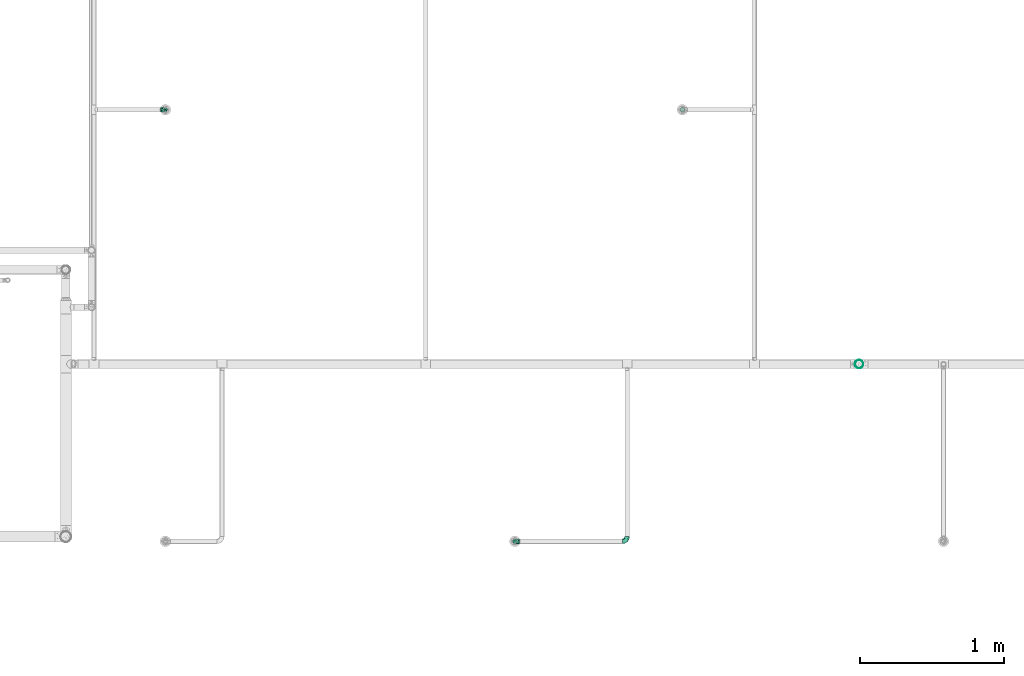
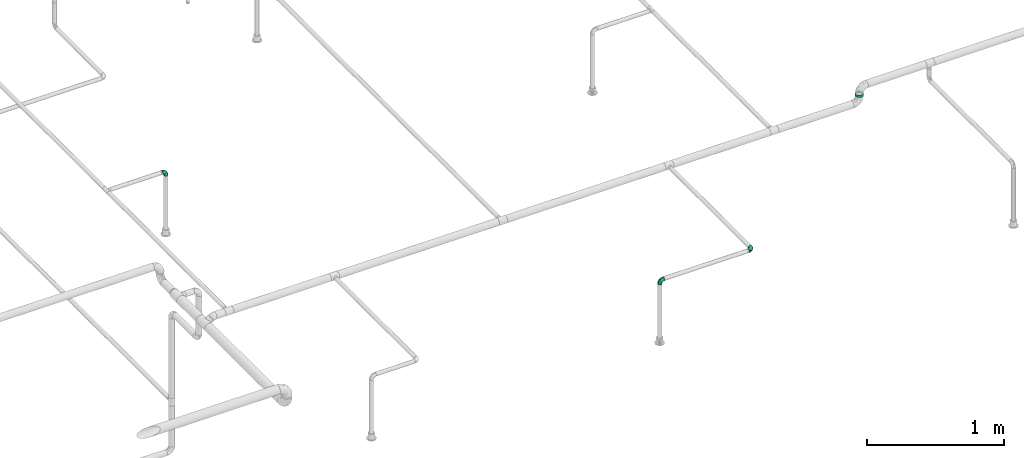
# One storey, part 63 of 95: 5 flow fittings, 1 flow segment.
"""IFC2X3 building model written with IfcOpenShell, lengths in millimetres."""

from ifc_helpers import new_model, entity, si_unit, converted_unit, derived_unit, direction, frame, origin_with_axes, origin_2d_with_axis, place, context, subcontext, project, spatial, hollow_circle, extrude, open_shell, surface_model, source, transform, mapped, type_object, element, save


model = new_model("IFC2X3")

# Units and contexts
model_context = context("Model", 3, precision=0.01, world=frame((0.0, 4.29681676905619e-09, 0.0)), true_north=direction((4.01073788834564e-13, 1.0)))
plan_context = context("Plan", 3, precision=0.01, world=frame((0.0, 4.29681676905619e-09, 0.0)), true_north=direction((4.01073788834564e-13, 1.0)))
body_context = subcontext(model_context, "Body", "Model", "MODEL_VIEW")
ifc_project = project(units=[converted_unit("PLANEANGLEUNIT", "DEGREE", entity("IfcPositiveLengthMeasure", 0.0174532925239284), si_unit("PLANEANGLEUNIT", "RADIAN"), dimensions=[0, 0, 0, 0, 0, 0, 0]), si_unit("AREAUNIT", "SQUARE_METRE"), si_unit("LENGTHUNIT", "METRE", prefix="MILLI"), si_unit("MASSUNIT", "GRAM", prefix="KILO"), si_unit("POWERUNIT", "WATT"), si_unit("PRESSUREUNIT", "PASCAL"), si_unit("FORCEUNIT", "NEWTON", prefix="KILO"), si_unit("ELECTRICVOLTAGEUNIT", "VOLT"), si_unit("ELECTRICCURRENTUNIT", "AMPERE"), si_unit("THERMODYNAMICTEMPERATUREUNIT", "DEGREE_CELSIUS"), si_unit("TIMEUNIT", "SECOND"), si_unit("VOLUMEUNIT", "CUBIC_METRE"), derived_unit("LINEARVELOCITYUNIT", [(si_unit("LENGTHUNIT", "METRE"), 1), (si_unit("TIMEUNIT", "SECOND"), -1)]), derived_unit("VOLUMETRICFLOWRATEUNIT", [(si_unit("VOLUMEUNIT", "CUBIC_METRE"), 1), (si_unit("TIMEUNIT", "SECOND"), -1)]), derived_unit("THERMALTRANSMITTANCEUNIT", [(si_unit("POWERUNIT", "WATT"), 1), (si_unit("THERMODYNAMICTEMPERATUREUNIT", "KELVIN"), -1), (si_unit("AREAUNIT", "SQUARE_METRE"), -1)]), derived_unit("SOUNDPRESSUREUNIT", [(si_unit("PRESSUREUNIT", "PASCAL"), 1)])], contexts=[model_context, plan_context])

# Site, building, storey
site_placement = place(None, frame((0.0, -4.29681676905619e-09, 0.0), z_axis=(0.0, 0.0, 1.0), x_axis=(1.0, 0.0, 0.0)))
site = spatial("IfcSite", under=ifc_project, at=site_placement, CompositionType="ELEMENT")
building_placement = place(site_placement, frame((0.0, 4.29681676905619e-09, 0.0), z_axis=(0.0, 0.0, 1.0), x_axis=(1.0, 0.0, 0.0)))
building = spatial("IfcBuilding", under=site, at=building_placement, Name="mc-building", CompositionType="ELEMENT")
storey_placement = place(building_placement, frame((0.0, 0.0, 210900.0), z_axis=(0.0, 0.0, 1.0), x_axis=(1.0, 0.0, 0.0)))
storey = spatial("IfcBuildingStorey", under=building, at=storey_placement, Name="Nivå F", CompositionType="ELEMENT", Elevation=210900.0)

# Flow fittings
pipe_fitting_type_1 = type_object("IfcPipeFittingType", Name="magi_pipe_fe_reducer_centric_short_NOR", PredefinedType="TRANSITION")
shared_shape_1 = source(origin_with_axes(), body_context, "Body", "SurfaceModel", [
    surface_model("IfcShellBasedSurfaceModel", [(14.4, 5.35, -9.26647), (14.4, 0.0, -10.7), (14.4, 2.76936, -10.33541), (14.4, 10.33541, -2.76936), (14.4, 7.56604, -7.56604), (14.4, -10.33541, -2.76936), (14.4, 9.26647, -5.35), (14.4, 0.0, 10.7), (14.4, -5.35, -9.26647), (14.4, -2.76936, -10.33541), (14.4, -7.56604, -7.56604), (14.4, -9.26647, -5.35), (14.4, 10.7, 0.0), (14.4, 10.33541, 2.76936), (14.4, 9.26647, 5.35), (14.4, 7.56604, 7.56604), (14.4, 2.76936, 10.33541), (14.4, 5.35, 9.26647), (14.4, -10.33541, 2.76936), (14.4, -7.56604, 7.56604), (14.4, -9.26647, 5.35), (14.4, -10.7, 0.0), (14.4, -2.76936, 10.33541), (14.4, -5.35, 9.26647), (12.4, 2.76936, 10.33541), (12.4, -10.33541, -2.76936), (12.4, 0.0, 10.7), (12.4, 5.35, 9.26647), (12.4, 7.56604, 7.56604), (12.4, 9.26647, 5.35), (12.4, 10.33541, 2.76936), (12.4, -10.33541, 2.76936), (12.4, -2.76936, 10.33541), (12.4, -7.56604, 7.56604), (12.4, -5.35, 9.26647), (12.4, -9.26647, 5.35), (12.4, -10.7, 0.0), (12.4, 10.33541, -2.76936), (12.4, 5.35, -9.26647), (12.4, 9.26647, -5.35), (12.4, 7.56604, -7.56604), (12.4, 2.76936, -10.33541), (12.4, -9.26647, -5.35), (12.4, -5.35, -9.26647), (12.4, -7.56604, -7.56604), (12.4, 0.0, -10.7), (12.4, -2.76936, -10.33541), (12.4, 10.7, 0.0), (-2.0, 11.9501, 11.9501), (-2.0, 0.0, 16.9), (-2.0, 4.37404, 16.32415), (-2.0, 8.45, 14.63583), (-2.0, 14.63583, 8.45), (-2.0, 16.32415, 4.37404), (-2.0, -16.32415, 4.37404), (-2.0, -8.45, 14.63583), (-2.0, -14.63583, 8.45), (-2.0, -11.9501, 11.9501), (-2.0, -4.37404, 16.32415), (-2.0, -16.32415, -4.37404), (-2.0, -16.9, 0.0), (-2.0, -8.45, -14.63583), (-2.0, 16.32415, -4.37404), (-2.0, 11.9501, -11.9501), (-2.0, 14.63583, -8.45), (-2.0, 8.45, -14.63583), (-2.0, 4.37404, -16.32415), (-2.0, 0.0, -16.9), (-2.0, -11.9501, -11.9501), (-2.0, -14.63583, -8.45), (-2.0, -4.37404, -16.32415), (-2.0, 16.9, 0.0), (0.0, 4.37404, -16.32415), (0.0, 8.45, -14.63583), (0.0, 11.9501, -11.9501), (0.0, 0.0, -16.9), (0.0, 16.32415, -4.37404), (0.0, 16.32415, 4.37404), (0.0, 14.63583, -8.45), (0.0, -8.45, -14.63583), (0.0, -4.37404, -16.32415), (0.0, -11.9501, -11.9501), (0.0, -16.32415, -4.37404), (0.0, -14.63583, -8.45), (0.0, -16.32415, 4.37404), (0.0, 16.9, 0.0), (0.0, 14.63583, 8.45), (0.0, 11.9501, 11.9501), (0.0, 4.37404, 16.32415), (0.0, 8.45, 14.63583), (0.0, 0.0, 16.9), (0.0, -14.63583, 8.45), (0.0, -16.9, 0.0), (0.0, -8.45, 14.63583), (0.0, -11.9501, 11.9501), (0.0, -4.37404, 16.32415), (12.4, 9.3625, -2.31662), (0.0, 14.42505, -5.97505), (0.0, 15.66253, -2.98753), (12.4, -6.6875, -6.94985), (0.0, -13.18758, -8.96258), (0.0, 2.98753, -15.66253), (12.4, 0.0, -9.26647), (12.4, 6.6875, -6.94985), (0.0, 8.96258, -13.18758), (12.4, -9.3625, -2.31662), (0.0, -15.66253, -2.98753), (0.0, -14.42505, -5.97505), (0.0, 5.97505, -14.42505), (0.0, -2.98753, -15.66253), (0.0, -8.96258, -13.18758), (0.0, 13.18758, -8.96258), (12.4, 8.025, -4.63324), (12.4, -2.675, -9.26647), (12.4, 2.675, -9.26647), (0.0, -5.97505, -14.42505), (12.4, -8.025, -4.63324), (12.4, -9.3625, 2.31662), (0.0, -14.42505, 5.97505), (0.0, -15.66253, 2.98753), (12.4, 6.6875, 6.94985), (0.0, 13.18758, 8.96258), (0.0, -2.98753, 15.66253), (12.4, 0.0, 9.26647), (12.4, -6.6875, 6.94985), (0.0, -8.96258, 13.18758), (12.4, 9.3625, 2.31662), (0.0, 15.66253, 2.98753), (0.0, 14.42505, 5.97505), (0.0, -5.97505, 14.42505), (0.0, 2.98753, 15.66253), (0.0, 8.96258, 13.18758), (0.0, -13.18758, 8.96258), (12.4, -8.025, 4.63324), (12.4, 2.675, 9.26647), (12.4, -2.675, 9.26647), (0.0, 5.97505, 14.42505), (12.4, 8.025, 4.63324)], [open_shell([[[0, 1, 2]], [[3, 0, 4]], [[5, 0, 3]], [[3, 4, 6]], [[7, 5, 3]], [[1, 8, 9]], [[1, 0, 8]], [[10, 5, 11]], [[5, 10, 8]], [[0, 5, 8]], [[3, 12, 13]], [[13, 14, 15]], [[13, 15, 16]], [[7, 3, 16]], [[16, 15, 17]], [[7, 18, 5]], [[18, 19, 20]], [[21, 5, 18]], [[19, 22, 23]], [[22, 19, 18]], [[7, 22, 18]], [[13, 16, 3]], [[24, 25, 26]], [[27, 25, 24]], [[28, 29, 30]], [[28, 25, 27]], [[31, 26, 25]], [[32, 33, 34]], [[33, 32, 31]], [[33, 31, 35]], [[32, 26, 31]], [[31, 25, 36]], [[30, 37, 28]], [[25, 28, 37]], [[38, 37, 39]], [[37, 38, 25]], [[38, 39, 40]], [[41, 25, 38]], [[42, 43, 44]], [[43, 42, 25]], [[43, 45, 46]], [[43, 25, 41]], [[41, 45, 43]], [[37, 30, 47]], [[25, 5, 36]], [[42, 11, 25]], [[8, 44, 43]], [[42, 44, 10]], [[9, 43, 46]], [[25, 11, 5]], [[5, 21, 36]], [[9, 8, 43]], [[10, 44, 8]], [[10, 11, 42]], [[1, 9, 46]], [[46, 45, 1]], [[41, 2, 45]], [[38, 0, 41]], [[6, 40, 39]], [[38, 40, 4]], [[3, 39, 37]], [[38, 4, 0]], [[0, 2, 41]], [[12, 3, 37]], [[6, 39, 3]], [[6, 4, 40]], [[47, 12, 37]], [[45, 2, 1]], [[30, 13, 47]], [[29, 14, 30]], [[17, 28, 27]], [[29, 28, 15]], [[16, 27, 24]], [[30, 14, 13]], [[13, 12, 47]], [[16, 17, 27]], [[15, 28, 17]], [[15, 14, 29]], [[7, 16, 24]], [[24, 26, 7]], [[32, 22, 26]], [[34, 23, 32]], [[20, 33, 35]], [[34, 33, 19]], [[18, 35, 31]], [[34, 19, 23]], [[23, 22, 32]], [[21, 18, 31]], [[20, 35, 18]], [[20, 19, 33]], [[36, 21, 31]], [[26, 22, 7]], [[48, 49, 50]], [[48, 50, 51]], [[48, 52, 53]], [[48, 53, 49]], [[49, 53, 54]], [[55, 56, 57]], [[55, 58, 49]], [[56, 55, 49]], [[49, 54, 56]], [[54, 59, 60]], [[54, 53, 61]], [[53, 62, 63]], [[63, 62, 64]], [[63, 65, 66]], [[61, 53, 63]], [[67, 63, 66]], [[59, 68, 69]], [[68, 59, 61]], [[61, 67, 70]], [[59, 54, 61]], [[63, 67, 61]], [[53, 71, 62]], [[72, 73, 74]], [[75, 72, 74]], [[74, 76, 77]], [[76, 74, 78]], [[74, 77, 79]], [[75, 79, 80]], [[75, 74, 79]], [[81, 82, 83]], [[82, 81, 79]], [[79, 84, 82]], [[77, 76, 85]], [[77, 86, 87]], [[77, 87, 88]], [[88, 84, 79]], [[88, 87, 89]], [[84, 88, 90]], [[90, 91, 84]], [[92, 82, 84]], [[91, 93, 94]], [[91, 90, 93]], [[93, 90, 95]], [[79, 77, 88]], [[59, 82, 60]], [[69, 83, 59]], [[79, 68, 61]], [[69, 68, 81]], [[80, 61, 70]], [[59, 83, 82]], [[82, 92, 60]], [[80, 79, 61]], [[81, 68, 79]], [[81, 83, 69]], [[75, 80, 70]], [[70, 67, 75]], [[66, 72, 67]], [[65, 73, 66]], [[78, 63, 64]], [[65, 63, 74]], [[76, 64, 62]], [[65, 74, 73]], [[73, 72, 66]], [[85, 76, 62]], [[78, 64, 76]], [[78, 74, 63]], [[71, 85, 62]], [[67, 72, 75]], [[53, 77, 71]], [[52, 86, 53]], [[89, 48, 51]], [[52, 48, 87]], [[88, 51, 50]], [[53, 86, 77]], [[77, 85, 71]], [[88, 89, 51]], [[87, 48, 89]], [[87, 86, 52]], [[90, 88, 50]], [[50, 49, 90]], [[58, 95, 49]], [[55, 93, 58]], [[91, 57, 56]], [[55, 57, 94]], [[84, 56, 54]], [[55, 94, 93]], [[93, 95, 58]], [[92, 84, 54]], [[91, 56, 84]], [[91, 94, 57]], [[60, 92, 54]], [[49, 95, 90]], [[27, 34, 47]], [[47, 34, 43]], [[43, 38, 47]], [[43, 34, 36]], [[90, 87, 94]], [[92, 94, 87]], [[87, 74, 92]], [[75, 92, 74]], [[81, 92, 75]], [[74, 87, 85]], [[96, 97, 98]], [[81, 99, 100]], [[101, 102, 75]], [[98, 85, 47]], [[74, 103, 104]], [[104, 103, 38]], [[105, 106, 107]], [[38, 108, 104]], [[102, 109, 75]], [[110, 99, 81]], [[47, 96, 98]], [[103, 111, 112]], [[109, 102, 113]], [[36, 92, 106]], [[102, 101, 114]], [[110, 115, 43]], [[96, 112, 97]], [[107, 116, 105]], [[36, 106, 105]], [[113, 115, 109]], [[43, 115, 113]], [[116, 107, 100]], [[108, 38, 114]], [[111, 103, 74]], [[111, 97, 112]], [[99, 110, 43]], [[116, 100, 99]], [[101, 108, 114]], [[117, 118, 119]], [[87, 120, 121]], [[122, 123, 90]], [[119, 92, 36]], [[94, 124, 125]], [[125, 124, 34]], [[126, 127, 128]], [[34, 129, 125]], [[123, 130, 90]], [[131, 120, 87]], [[36, 117, 119]], [[124, 132, 133]], [[130, 123, 134]], [[47, 85, 127]], [[123, 122, 135]], [[131, 136, 27]], [[117, 133, 118]], [[128, 137, 126]], [[47, 127, 126]], [[134, 136, 130]], [[27, 136, 134]], [[137, 128, 121]], [[129, 34, 135]], [[132, 124, 94]], [[132, 118, 133]], [[120, 131, 27]], [[137, 121, 120]], [[122, 129, 135]]])]),
])
for number, where, z_axis, x_axis, name in (
    (1, (526881.79186, 452603.28649, 3769.25200000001), (0.0, -0.99999999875, -4.99999999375e-05), (0.0, 4.99999999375e-05, -0.99999999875), "magi_pipe_fe_reducer_centric_short_NOR"),
    (2, (525718.79194, 449607.85, 3769.25200000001), (-0.000893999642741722, -0.99999960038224, 0.0), (0.0, 0.0, -1.0), "magi_pipe_fe_reducer_centric_short_NOR"),
):
    element("IfcFlowFitting", number, at=place(storey_placement, frame(where, z_axis=z_axis, x_axis=x_axis)), inside=storey, type_object=pipe_fitting_type_1, Name=name, context=body_context, shape_type="MappedRepresentation", body=[
        mapped(shared_shape_1, transform((0.0, 0.0, 0.0), scale=1.0)),
    ])
pipe_fitting_type_2 = type_object("IfcPipeFittingType", Name="magi_pipe_fe_elbow_short_001", PredefinedType="BEND")
shared_shape_2 = source(origin_with_axes(), body_context, "Body", "SurfaceModel", [
    surface_model("IfcShellBasedSurfaceModel", [(-33.8, 8.45, -14.63583), (-33.8, 4.37404, -16.32415), (-33.8, 11.9501, -11.9501), (-33.8, -11.9501, -11.9501), (-33.8, -14.63583, -8.45), (-33.8, -8.45, -14.63583), (-33.8, 0.0, -16.9), (-33.8, -4.37404, -16.32415), (-33.8, -4.37404, 16.32415), (-33.8, 0.0, 16.9), (-33.8, -8.45, 14.63583), (-33.8, 16.32415, -4.37404), (-33.8, 14.63583, -8.45), (-33.8, -16.32415, -4.37404), (-33.8, -16.9, 0.0), (-33.8, -16.32415, 4.37404), (-33.8, 11.9501, 11.9501), (-33.8, 14.63583, 8.45), (-33.8, 16.32415, 4.37404), (-33.8, 4.37404, 16.32415), (-33.8, 8.45, 14.63583), (-33.8, -14.63583, 8.45), (-33.8, -11.9501, 11.9501), (-33.8, 16.9, 0.0), (-11.9501, 33.8, -11.9501), (0.0, 33.8, -16.9), (-4.37404, 33.8, -16.32415), (-8.45, 33.8, -14.63583), (-14.63583, 33.8, -8.45), (-16.32415, 33.8, -4.37404), (14.63583, 33.8, -8.45), (8.45, 33.8, 14.63583), (16.32415, 33.8, -4.37404), (8.45, 33.8, -14.63583), (11.9501, 33.8, -11.9501), (4.37404, 33.8, -16.32415), (16.32415, 33.8, 4.37404), (16.9, 33.8, 0.0), (-11.9501, 33.8, 11.9501), (-16.32415, 33.8, 4.37404), (-14.63583, 33.8, 8.45), (-8.45, 33.8, 14.63583), (-4.37404, 33.8, 16.32415), (11.9501, 33.8, 11.9501), (14.63583, 33.8, 8.45), (0.0, 33.8, 16.9), (4.37404, 33.8, 16.32415), (-16.9, 33.8, 0.0), (-24.79389, -13.12945, 9.48721), (-22.19287, -9.75018, 12.59315), (-24.09897, -14.97035, 0.0), (-14.93934, -10.76256, 8.5297), (-22.46095, -14.75051, 5.27077), (14.75051, 22.46094, 5.27077), (11.9251, 13.23888, 4.33236), (13.04069, 14.39795, 0.0), (7.71387, 13.68847, 11.55891), (9.75018, 22.19287, 12.59315), (4.10169, 13.0571, 14.04018), (-24.84007, -6.39063, 15.2048), (-25.81779, -2.23879, 16.61097), (-23.66549, 2.59054, 16.87119), (-26.50418, 14.06512, 11.08152), (-24.21253, 17.66365, 7.72657), (-29.58514, 15.86957, 7.00283), (-6.17382, -7.5455, 0.0), (-13.23888, -11.9251, 4.33236), (-14.39795, -13.04069, 0.0), (-17.81434, 18.87373, 11.97104), (-6.30846, 29.15138, 15.82987), (-2.31622, 25.28002, 16.85849), (-29.23923, 10.23435, 13.77053), (-1.45439, -2.85688, 7.61475), (-0.28326, 0.34872, 10.09509), (-5.74484, -4.04709, 10.4122), (-4.41137, 11.31918, 16.59407), (-8.39727, 3.10034, 15.7812), (-1.72649, 9.1306, 15.53089), (-17.39909, 24.75344, 7.64977), (-26.19233, 20.0512, 0.0), (-28.14518, 17.29657, 4.25857), (-26.05147, 6.6281, 15.96447), (-5.87354, 16.61944, 16.86968), (-12.51807, 12.51807, 16.48937), (-10.06312, 7.38516, 16.81295), (-3.01882, 3.01882, 13.81718), (-13.0571, -4.10169, 14.04018), (-16.82553, -0.15166, 16.38038), (10.76256, 14.93934, 8.5297), (13.12945, 24.79389, 9.48721), (6.39063, 24.84007, 15.2048), (2.23879, 25.81779, 16.61097), (-13.68847, -7.71387, 11.55891), (14.97035, 24.09897, 0.0), (-7.30894, 22.89991, 16.09489), (-10.67958, 26.17414, 14.008), (-12.78295, 18.26924, 15.06066), (-13.88562, 22.45231, 12.93244), (-18.04944, 15.16501, 14.04434), (-23.11658, 20.08178, 4.02986), (-21.84989, 21.84989, 0.0), (-18.55817, 25.48277, 3.93065), (-13.95142, 26.94732, 11.03289), (-18.57098, 7.23906, 16.59756), (-16.58335, 4.14122, 16.89279), (-17.96666, 11.46709, 15.63151), (-9.84453, 17.54304, 16.18938), (0.15166, 16.82553, 16.38038), (-23.27207, 11.47201, 14.23154), (3.84842, 5.86994, 10.70473), (-8.0212, -7.54413, 7.93275), (1.00345, -2.19508, 4.57414), (5.13203, 3.01004, 5.90201), (5.24161, 1.7543, 2.53265), (8.70457, 7.04947, 3.99182), (-20.0512, 26.19233, 0.0), (8.4852, 8.76699, 7.09296), (-4.55488, -6.72064, 4.90681), (2.05031, -2.05031, 0.0), (7.5455, 6.17382, 0.0), (-26.75399, 2.1369, -16.845), (-14.61995, 24.73803, -11.27736), (-28.45274, -13.45335, -9.81895), (-26.00469, 6.63555, -15.96645), (-23.06726, 20.04573, -4.26202), (-13.80647, -4.26506, -14.17873), (-14.67501, -0.21081, -16.07388), (-6.7902, -0.2828, -13.8478), (-24.53586, 11.08096, -14.13417), (-26.72048, 14.00837, -11.05776), (10.0967, 24.44989, -12.75976), (5.83237, 21.40218, -15.03047), (6.66249, 28.54238, -15.38093), (-20.38182, 15.48705, -12.74596), (12.53268, 21.23441, -9.15363), (12.54494, 15.67504, -5.54878), (9.7522, 12.89279, -8.66343), (-15.65186, 19.64213, -13.01327), (-12.03528, 20.66498, -14.67665), (-15.61907, 15.61906, -14.83879), (-25.56551, -15.26206, 0.0), (-24.65452, -15.12934, -5.50955), (13.45335, 28.45274, -9.81895), (15.12934, 24.65452, -5.50955), (-7.35442, -8.31014, -5.65563), (-15.67504, -12.54494, -5.54878), (-24.44989, -10.0967, -12.75976), (0.16522, 0.41303, -9.71728), (-5.70658, -5.33066, -8.89288), (-5.13869, -2.37198, -11.53565), (-21.23441, -12.53268, -9.15363), (0.71146, 7.93863, -14.09382), (0.21081, 14.67501, -16.07388), (3.49291, 14.42772, -14.76381), (-24.89911, -2.13088, -16.591), (-28.54238, -6.66249, -15.38093), (-18.44386, -7.71663, -13.26957), (2.13088, 24.89911, -16.591), (-28.64342, 17.44413, -2.89318), (1.70017, -1.28722, -5.09504), (-16.57067, 26.81947, -7.36596), (-17.69055, 27.4263, -3.76405), (-12.89279, -9.7522, -8.66343), (-5.96611, 5.96611, -15.95814), (-20.53709, 20.09345, -8.28985), (-2.1369, 26.75399, -16.845), (-6.89872, 24.58781, -16.02578), (-10.60739, 26.53157, -13.98044), (-21.40218, -5.83237, -15.03047), (2.93192, 5.89627, -11.55917), (6.89393, 12.61842, -11.82233), (5.58056, 5.95325, -8.79455), (-3.99512, 18.61798, -16.89635), (8.31014, 7.35442, -5.65563), (-9.1383, 9.86148, -16.89041), (-9.99983, 16.02119, -16.39699), (-16.68576, 9.78031, -16.34199), (-27.01915, 16.61158, -7.12979), (15.26206, 25.56551, 0.0), (-18.61798, 3.99512, -16.89635), (-19.37495, 27.82495, 0.0), (-12.61842, -6.89393, -11.82233), (-18.84705, 19.14018, -10.96545)], [open_shell([[[0, 1, 2]], [[3, 4, 5]], [[6, 7, 5]], [[8, 9, 10]], [[1, 6, 2]], [[11, 12, 2]], [[4, 2, 6]], [[2, 13, 10]], [[5, 4, 6]], [[2, 4, 13]], [[14, 15, 13]], [[11, 2, 16]], [[11, 17, 18]], [[11, 16, 17]], [[19, 20, 16]], [[16, 2, 10]], [[19, 16, 10]], [[21, 22, 15]], [[22, 13, 15]], [[22, 10, 13]], [[10, 9, 19]], [[11, 18, 23]], [[24, 25, 26]], [[24, 26, 27]], [[24, 28, 29]], [[25, 24, 30]], [[31, 32, 24]], [[33, 30, 34]], [[33, 35, 25]], [[25, 30, 33]], [[32, 30, 24]], [[32, 36, 37]], [[38, 24, 29]], [[39, 40, 29]], [[40, 38, 29]], [[38, 41, 42]], [[38, 31, 24]], [[31, 38, 42]], [[36, 43, 44]], [[36, 32, 43]], [[31, 45, 46]], [[32, 31, 43]], [[42, 45, 31]], [[39, 29, 47]], [[22, 48, 49]], [[15, 14, 50]], [[51, 48, 52]], [[53, 54, 55]], [[48, 22, 21]], [[15, 52, 21]], [[56, 57, 58]], [[49, 10, 22]], [[49, 59, 10]], [[9, 60, 61]], [[62, 63, 64]], [[65, 66, 67]], [[57, 43, 31]], [[62, 68, 63]], [[42, 69, 70]], [[20, 71, 16]], [[8, 60, 9]], [[72, 73, 74]], [[75, 76, 77]], [[16, 62, 17]], [[40, 39, 78]], [[79, 23, 80]], [[64, 18, 17]], [[9, 61, 19]], [[19, 81, 20]], [[82, 83, 84]], [[74, 85, 86]], [[59, 86, 87]], [[88, 89, 57]], [[90, 31, 46]], [[44, 53, 36]], [[46, 45, 91]], [[54, 53, 88]], [[44, 89, 53]], [[92, 86, 49]], [[89, 44, 43]], [[10, 59, 8]], [[53, 55, 93]], [[93, 36, 53]], [[66, 52, 67]], [[94, 82, 70]], [[95, 96, 94]], [[97, 98, 96]], [[79, 99, 100]], [[41, 38, 95]], [[101, 100, 99]], [[68, 78, 63]], [[42, 41, 69]], [[23, 18, 80]], [[95, 94, 69]], [[78, 101, 99]], [[38, 102, 95]], [[70, 45, 42]], [[97, 95, 102]], [[15, 50, 52]], [[90, 57, 31]], [[57, 90, 58]], [[81, 19, 61]], [[103, 104, 84]], [[105, 81, 103]], [[38, 40, 102]], [[106, 96, 83]], [[94, 106, 82]], [[91, 70, 107]], [[71, 62, 16]], [[62, 108, 98]], [[86, 59, 49]], [[67, 52, 50]], [[60, 59, 87]], [[92, 49, 51]], [[86, 85, 76]], [[91, 90, 46]], [[37, 36, 93]], [[107, 77, 58]], [[107, 58, 90]], [[58, 85, 109]], [[110, 74, 92]], [[72, 74, 110]], [[66, 51, 52]], [[72, 111, 112]], [[113, 114, 112]], [[56, 88, 57]], [[52, 48, 21]], [[49, 48, 51]], [[57, 89, 43]], [[53, 89, 88]], [[103, 81, 61]], [[71, 81, 108]], [[18, 64, 80]], [[63, 78, 99]], [[47, 115, 101]], [[101, 115, 100]], [[40, 78, 102]], [[68, 102, 78]], [[97, 96, 95]], [[105, 98, 108]], [[103, 84, 83]], [[107, 70, 82]], [[76, 84, 87]], [[82, 84, 75]], [[70, 91, 45]], [[90, 91, 107]], [[59, 60, 8]], [[61, 60, 87]], [[73, 85, 74]], [[109, 112, 116]], [[103, 61, 104]], [[105, 103, 83]], [[96, 105, 83]], [[81, 105, 108]], [[96, 98, 105]], [[62, 98, 68]], [[61, 87, 104]], [[87, 84, 104]], [[86, 76, 87]], [[77, 76, 85]], [[58, 77, 85]], [[75, 77, 107]], [[82, 75, 107]], [[76, 75, 84]], [[81, 71, 20]], [[62, 71, 108]], [[95, 69, 41]], [[70, 69, 94]], [[62, 64, 17]], [[80, 63, 99]], [[63, 80, 64]], [[80, 99, 79]], [[66, 65, 117]], [[110, 66, 117]], [[112, 114, 116]], [[118, 117, 65]], [[110, 92, 51]], [[112, 111, 113]], [[119, 55, 54]], [[74, 86, 92]], [[58, 109, 56]], [[116, 56, 109]], [[66, 110, 51]], [[72, 110, 117]], [[111, 72, 117]], [[73, 112, 109]], [[117, 118, 111]], [[113, 111, 118]], [[118, 119, 113]], [[114, 119, 54]], [[119, 114, 113]], [[116, 54, 88]], [[54, 116, 114]], [[116, 88, 56]], [[112, 73, 72]], [[85, 73, 109]], [[78, 39, 101]], [[47, 101, 39]], [[102, 68, 97]], [[97, 68, 98]], [[82, 106, 83]], [[94, 96, 106]], [[1, 120, 6]], [[28, 24, 121]], [[3, 122, 4]], [[0, 123, 1]], [[100, 124, 79]], [[125, 126, 127]], [[128, 2, 129]], [[130, 131, 132]], [[128, 129, 133]], [[134, 135, 136]], [[137, 138, 139]], [[128, 0, 2]], [[67, 140, 141]], [[134, 142, 143]], [[141, 13, 4]], [[144, 65, 145]], [[146, 3, 5]], [[147, 148, 149]], [[145, 141, 150]], [[151, 152, 153]], [[154, 7, 6]], [[5, 155, 146]], [[150, 146, 156]], [[155, 5, 7]], [[143, 135, 134]], [[35, 157, 25]], [[23, 79, 158]], [[148, 159, 144]], [[160, 161, 29]], [[145, 162, 144]], [[163, 152, 151]], [[29, 28, 160]], [[121, 164, 160]], [[33, 34, 130]], [[25, 165, 26]], [[26, 165, 166]], [[142, 34, 30]], [[24, 27, 167]], [[124, 161, 164]], [[157, 35, 132]], [[155, 154, 168]], [[123, 0, 128]], [[169, 170, 171]], [[172, 157, 152]], [[26, 166, 27]], [[132, 35, 33]], [[142, 130, 34]], [[168, 154, 126]], [[136, 135, 173]], [[133, 137, 139]], [[2, 12, 129]], [[170, 131, 130]], [[30, 32, 143]], [[172, 174, 175]], [[176, 123, 128]], [[158, 177, 11]], [[135, 55, 119]], [[167, 27, 166]], [[175, 166, 172]], [[137, 167, 138]], [[122, 141, 4]], [[140, 14, 13]], [[32, 37, 178]], [[170, 130, 134]], [[152, 157, 131]], [[165, 157, 172]], [[153, 170, 151]], [[152, 163, 174]], [[168, 125, 156]], [[122, 146, 150]], [[120, 154, 6]], [[179, 174, 126]], [[179, 126, 154]], [[126, 163, 127]], [[162, 145, 150]], [[140, 13, 141]], [[32, 178, 143]], [[55, 143, 178]], [[177, 129, 12]], [[128, 133, 139]], [[176, 128, 139]], [[120, 123, 179]], [[121, 160, 28]], [[161, 100, 180]], [[166, 175, 138]], [[121, 24, 167]], [[161, 47, 29]], [[79, 124, 158]], [[124, 164, 177]], [[161, 124, 100]], [[136, 171, 170]], [[127, 163, 151]], [[147, 171, 159]], [[148, 144, 162]], [[127, 151, 169]], [[127, 181, 125]], [[129, 177, 164]], [[12, 11, 177]], [[159, 65, 144]], [[67, 141, 145]], [[143, 55, 135]], [[135, 119, 173]], [[123, 120, 1]], [[154, 120, 179]], [[157, 165, 25]], [[166, 165, 172]], [[172, 152, 174]], [[176, 139, 175]], [[126, 174, 163]], [[176, 174, 179]], [[174, 176, 175]], [[123, 176, 179]], [[150, 181, 162]], [[127, 149, 181]], [[181, 148, 162]], [[159, 148, 147]], [[171, 136, 173]], [[170, 134, 136]], [[159, 171, 173]], [[171, 147, 169]], [[169, 147, 149]], [[151, 170, 169]], [[164, 182, 129]], [[182, 121, 137]], [[181, 149, 148]], [[169, 149, 127]], [[182, 137, 133]], [[167, 137, 121]], [[166, 138, 167]], [[175, 139, 138]], [[129, 182, 133]], [[121, 182, 164]], [[161, 160, 164]], [[47, 161, 180]], [[177, 158, 124]], [[23, 158, 11]], [[130, 132, 33]], [[157, 132, 131]], [[143, 142, 30]], [[130, 142, 134]], [[154, 155, 7]], [[146, 155, 168]], [[146, 122, 3]], [[141, 122, 150]], [[152, 131, 153]], [[159, 119, 118]], [[67, 145, 65]], [[170, 153, 131]], [[119, 159, 173]], [[159, 118, 65]], [[156, 125, 181]], [[126, 125, 168]], [[150, 156, 181]], [[168, 156, 146]]])]),
])
for number, where, z_axis, x_axis, name in (
    (3, (526498.79194, 449607.85, 4315.0), (0.0, 0.0, 1.0), (1.0, 0.0, 0.0), "magi_pipe_fe_elbow_short_001"),
    (4, (525718.79194, 449607.85, 4315.0), (0.0, -1.0, 0.0), (-1.0, 0.0, 0.0), "magi_pipe_fe_elbow_short_001"),
    (5, (523293.96306, 452603.26458, 4315.0), (0.0, -0.99999999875, -4.99999999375e-05), (0.0, -4.99999999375e-05, 0.99999999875), "magi_pipe_fe_elbow_short_001"),
):
    element("IfcFlowFitting", number, at=place(storey_placement, frame(where, z_axis=z_axis, x_axis=x_axis)), inside=storey, type_object=pipe_fitting_type_2, Name=name, context=body_context, shape_type="MappedRepresentation", body=[
        mapped(shared_shape_2, transform((0.0, 0.0, 0.0), scale=1.0)),
    ])

# Flow segment
pipe_segment_type = type_object("IfcPipeSegmentType", Name="Stålrør normaltykke", PredefinedType="RIGIDSEGMENT")
shared_shape_3 = source(origin_with_axes(), body_context, "Body", "SweptSolid", [
    extrude(hollow_circle(Radius=30.1, WallThickness=2.0, at=origin_2d_with_axis()), frame((0.0, 0.0, 0.0), z_axis=(1.0, 0.0, 0.0), x_axis=(0.0, 1.0, 0.0)), (0.0, 0.0, 1.0), 19.7),
])
flow_segment_placement = place(storey_placement, frame((528108.06458, 450838.0, 4375.39999999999), z_axis=(0.0, 1.0, 0.0), x_axis=(0.0, 0.0, 1.0)))
element("IfcFlowSegment", 6, at=flow_segment_placement, inside=storey, type_object=pipe_segment_type, Name="Stålrør normaltykke", context=body_context, shape_type="MappedRepresentation", body=[
    mapped(shared_shape_3, transform((0.0, 0.0, 0.0), scale=1.0)),
])

save(model, "model.ifc")
